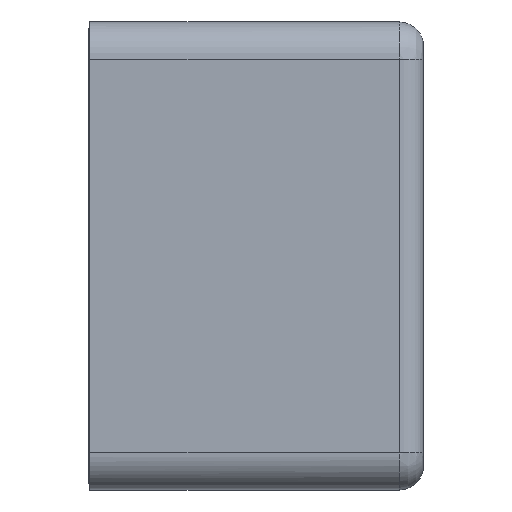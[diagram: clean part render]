
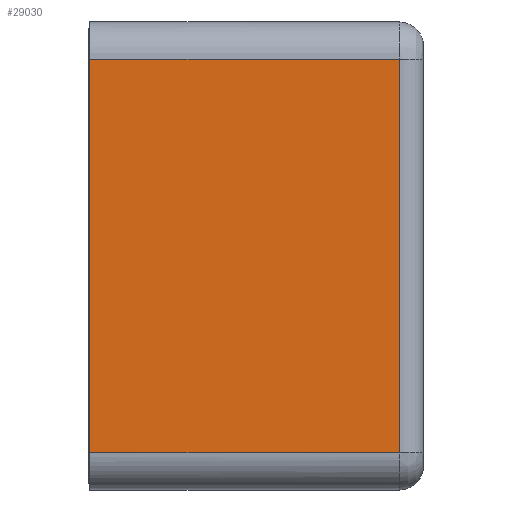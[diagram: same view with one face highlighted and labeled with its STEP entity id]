
A CAD part, left-side view. The second image highlights one B-rep face of the part: STEP entity #29030.
In plain terms, the highlighted planar face has unit normal (-1, 0, 0).
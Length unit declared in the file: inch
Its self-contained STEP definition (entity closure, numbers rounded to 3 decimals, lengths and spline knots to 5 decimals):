
#3078 = ORIENTED_EDGE ( 'NONE', *, *, #42048, .F. ) ;
#5037 = ORIENTED_EDGE ( 'NONE', *, *, #49674, .F. ) ;
#6461 = LINE ( 'NONE', #71602, #22851 ) ;
#8251 = PLANE ( 'NONE',  #42362 ) ;
#13139 = VECTOR ( 'NONE', #41568, 39.37008 ) ;
#14641 = CARTESIAN_POINT ( 'NONE',  ( -15.2611, 0.165, -8.21321 ) ) ;
#15267 = DIRECTION ( 'NONE',  ( 0., 0., 1. ) ) ;
#18305 = CARTESIAN_POINT ( 'NONE',  ( -15.2611, -12.75, 8.21321 ) ) ;
#22851 = VECTOR ( 'NONE', #57611, 39.37008 ) ;
#28675 = CARTESIAN_POINT ( 'NONE',  ( -15.2611, 0.165, 8.21321 ) ) ;
#29030 = ADVANCED_FACE ( 'NONE', ( #64080 ), #8251, .T. ) ;
#31691 = CARTESIAN_POINT ( 'NONE',  ( -15.2611, 0.065, 8.21321 ) ) ;
#32104 = VECTOR ( 'NONE', #80680, 39.37008 ) ;
#34172 = VERTEX_POINT ( 'NONE', #82161 ) ;
#37698 = DIRECTION ( 'NONE',  ( 0., 0., 1. ) ) ;
#38215 = ORIENTED_EDGE ( 'NONE', *, *, #66616, .T. ) ;
#38263 = VERTEX_POINT ( 'NONE', #14641 ) ;
#41568 = DIRECTION ( 'NONE',  ( 0., 0., 1. ) ) ;
#42048 = EDGE_CURVE ( 'NONE', #38263, #79134, #50512, .T. ) ;
#42362 = AXIS2_PLACEMENT_3D ( 'NONE', #43281, #56718, #15267 ) ;
#43281 = CARTESIAN_POINT ( 'NONE',  ( -15.2611, 0.065, 8.21321 ) ) ;
#48332 = EDGE_LOOP ( 'NONE', ( #5037, #79746, #38215, #3078 ) ) ;
#49674 = EDGE_CURVE ( 'NONE', #34172, #38263, #6461, .T. ) ;
#49720 = VECTOR ( 'NONE', #37698, 39.37008 ) ;
#50512 = LINE ( 'NONE', #90445, #13139 ) ;
#56301 = LINE ( 'NONE', #18305, #49720 ) ;
#56718 = DIRECTION ( 'NONE',  ( -1., 0., 0. ) ) ;
#57611 = DIRECTION ( 'NONE',  ( 0., 1., 0. ) ) ;
#59904 = EDGE_CURVE ( 'NONE', #34172, #62270, #56301, .T. ) ;
#62270 = VERTEX_POINT ( 'NONE', #74417 ) ;
#64080 = FACE_OUTER_BOUND ( 'NONE', #48332, .T. ) ;
#66616 = EDGE_CURVE ( 'NONE', #62270, #79134, #67121, .T. ) ;
#67121 = LINE ( 'NONE', #31691, #32104 ) ;
#71602 = CARTESIAN_POINT ( 'NONE',  ( -15.2611, 0.065, -8.21321 ) ) ;
#74417 = CARTESIAN_POINT ( 'NONE',  ( -15.2611, -12.75, 8.21321 ) ) ;
#79134 = VERTEX_POINT ( 'NONE', #28675 ) ;
#79746 = ORIENTED_EDGE ( 'NONE', *, *, #59904, .T. ) ;
#80680 = DIRECTION ( 'NONE',  ( 0., 1., 0. ) ) ;
#82161 = CARTESIAN_POINT ( 'NONE',  ( -15.2611, -12.75, -8.21321 ) ) ;
#90445 = CARTESIAN_POINT ( 'NONE',  ( -15.2611, 0.165, 8.21321 ) ) ;
